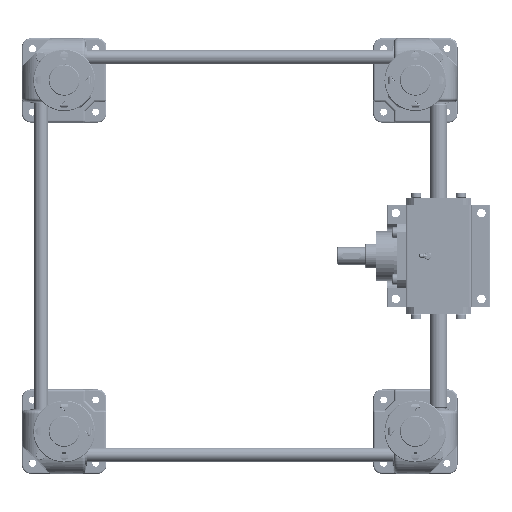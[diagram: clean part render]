
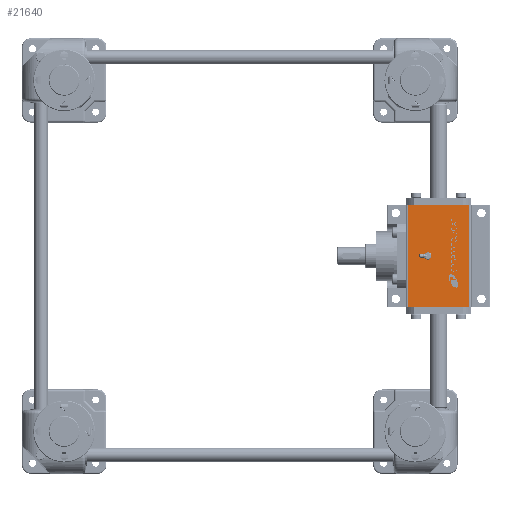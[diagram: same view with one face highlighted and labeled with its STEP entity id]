
A CAD part, top view. The second image highlights one B-rep face of the part: STEP entity #21640.
In plain terms, the highlighted planar face has unit normal (0, 0, 1).
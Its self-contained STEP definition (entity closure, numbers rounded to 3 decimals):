
#21640=ADVANCED_FACE('',(#48919,#48920),#48921,.F.);
#48919=FACE_OUTER_BOUND('',#97787,.T.);
#48920=FACE_BOUND('',#97788,.T.);
#48921=PLANE('',#97789);
#97787=EDGE_LOOP('',(#204232,#204233,#204234,#204235));
#97788=EDGE_LOOP('',(#204236));
#97789=AXIS2_PLACEMENT_3D('',#204237,#204238,#204239);
#204232=ORIENTED_EDGE('',*,*,#262855,.T.);
#204233=ORIENTED_EDGE('',*,*,#262799,.F.);
#204234=ORIENTED_EDGE('',*,*,#262696,.F.);
#204235=ORIENTED_EDGE('',*,*,#262856,.T.);
#204236=ORIENTED_EDGE('',*,*,#262857,.F.);
#204237=CARTESIAN_POINT('',(0.,-47.0,96.5));
#204238=DIRECTION('',(0.,0.0,-1.0));
#204239=DIRECTION('',(0.0,-1.0,0.0));
#262696=EDGE_CURVE('',#342166,#342161,#342168,.T.);
#262799=EDGE_CURVE('',#342161,#342358,#342359,.T.);
#262855=EDGE_CURVE('',#342447,#342358,#342448,.T.);
#262856=EDGE_CURVE('',#342166,#342447,#342449,.T.);
#262857=EDGE_CURVE('',#342450,#342450,#342451,.T.);
#342161=VERTEX_POINT('',#489458);
#342166=VERTEX_POINT('',#489464);
#342168=LINE('',#489466,#489467);
#342358=VERTEX_POINT('',#489728);
#342359=LINE('',#489729,#489730);
#342447=VERTEX_POINT('',#489865);
#342448=LINE('',#489866,#489867);
#342449=LINE('',#489868,#489869);
#342450=VERTEX_POINT('',#489870);
#342451=CIRCLE('',#489871,3.0);
#489458=CARTESIAN_POINT('',(73.0,44.0,96.5));
#489464=CARTESIAN_POINT('',(-73.0,44.0,96.5));
#489466=CARTESIAN_POINT('',(0.,44.0,96.5));
#489467=VECTOR('',#556593,1.0);
#489728=CARTESIAN_POINT('',(73.0,-44.0,96.5));
#489729=CARTESIAN_POINT('',(73.0,0.0,96.5));
#489730=VECTOR('',#556777,1.0);
#489865=CARTESIAN_POINT('',(-73.0,-44.0,96.5));
#489866=CARTESIAN_POINT('',(0.,-44.0,96.5));
#489867=VECTOR('',#556868,1.0);
#489868=CARTESIAN_POINT('',(-73.0,0.0,96.5));
#489869=VECTOR('',#556869,1.0);
#489870=CARTESIAN_POINT('',(3.0,15.2,96.5));
#489871=AXIS2_PLACEMENT_3D('',#556870,#556871,#556872);
#556593=DIRECTION('',(1.0,0.0,0.0));
#556777=DIRECTION('',(0.0,-1.0,0.0));
#556868=DIRECTION('',(1.0,0.0,0.));
#556869=DIRECTION('',(0.0,-1.0,0.0));
#556870=CARTESIAN_POINT('',(0.0,15.2,96.5));
#556871=DIRECTION('',(0.,0.0,1.0));
#556872=DIRECTION('',(1.0,0.0,0.));
